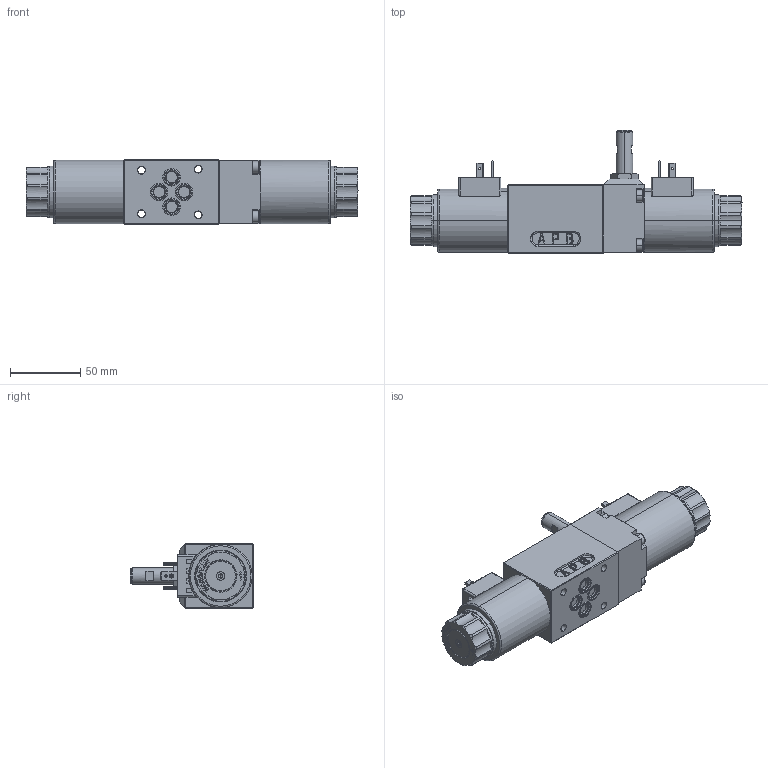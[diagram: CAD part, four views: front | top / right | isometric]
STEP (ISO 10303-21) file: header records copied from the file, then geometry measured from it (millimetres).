
FILE_DESCRIPTION (( 'STEP AP214' ), '1' );
FILE_NAME ('WDMFA06-4_3-Z482b,Z603b,Z680b.STEP', '2019-08-12T13:51:20', ( '' ), ( '' ), 'SwSTEP 2.0', 'SolidWorks 2018', '' );
FILE_SCHEMA (( 'AUTOMOTIVE_DESIGN' ));
Length unit declared in the file: millimetre
Products named in the file (1): WDMFA06-4_3-Z482b,Z603b,Z680b
Bounding box: 236.4 x 87.8 x 46 mm (x, y, z)
Volume: 428015.2 mm3; surface area: 61893.9 mm2
Topology: 14 solids, 22 shells, 1991 faces, 5325 edges, 3436 vertices
Faces by surface type: plane 1010, cylinder 690, cone 115, bspline 114, torus 40, sphere 22
Entity records: 88193 total; most frequent: CARTESIAN_POINT 16505, ORIENTED_EDGE 10580, DIRECTION 10254, EDGE_CURVE 5290, AXIS2_PLACEMENT_3D 3594, VERTEX_POINT 3436, LINE 3066, VECTOR 3066
